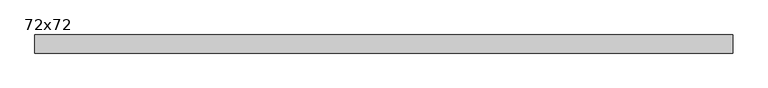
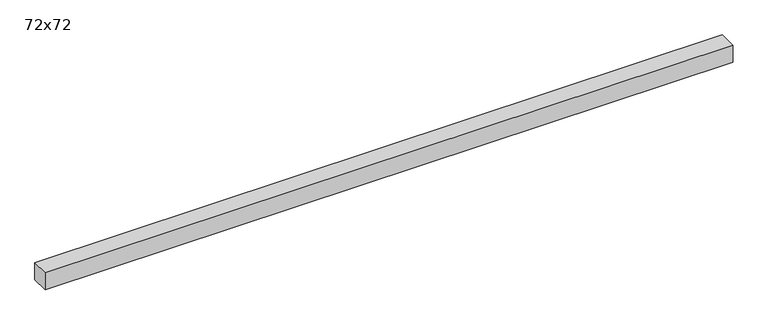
"""IFC4 building model written with IfcOpenShell, lengths in millimetres: beam geometry, C&L poutre bois : 72x72."""

from ifc_helpers import new_model, si_unit, frame, origin, place, context, project, spatial, polyline, outline, extrude, source, transform, mapped, element, save


def beam_72x72_de297471(model_context):
    return source(origin(), model_context, "Body", "SweptSolid", [
        extrude(outline(polyline([(1384.5, -36.0), (-1384.5, -36.0), (-1384.5, 36.0), (1384.5, 36.0), (1384.5, -36.0)])), frame((0.0, 0.0, -36.0), z_axis=(0.0, 0.0, 1.0), x_axis=(1.0, 0.0, 0.0)), (0.0, 0.0, 1.0), 72.0),
    ])


if __name__ == "__main__":
    model = new_model("IFC4")
    model_context = context("Model", 3, world=origin())
    ifc_project = project(units=[si_unit("LENGTHUNIT", "METRE", prefix="MILLI")], contexts=[model_context])
    site = spatial("IfcSite", under=ifc_project)
    building = spatial("IfcBuilding", under=site)
    placement = place(None, origin())
    beam_72x72_shape = beam_72x72_de297471(model_context)
    element("IfcBeam", 1, ObjectType="C&L poutre bois : 72x72", at=placement, inside=building, context=model_context, shape_type="MappedRepresentation", body=[
        mapped(beam_72x72_shape, transform((0.0, 0.0, 0.0), x_axis=(1.0, 0.0, 0.0), y_axis=(0.0, 1.0, 0.0), z_axis=(0.0, 0.0, 1.0))),
    ])
    save(model, "model.ifc")
